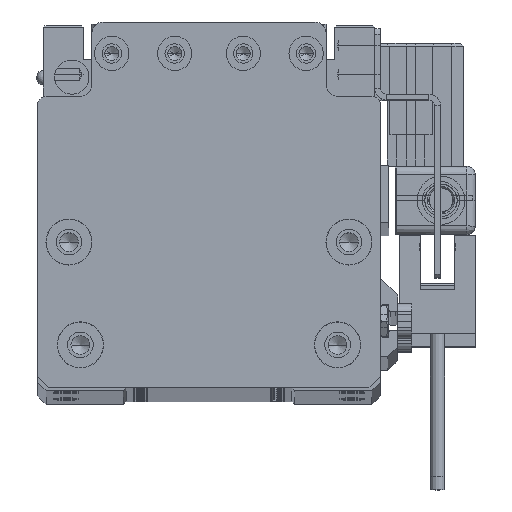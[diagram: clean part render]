
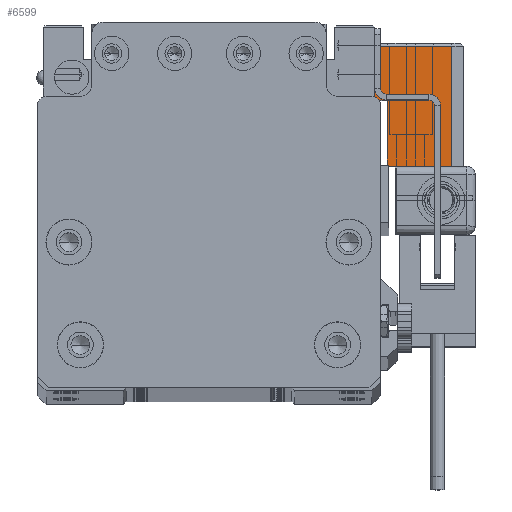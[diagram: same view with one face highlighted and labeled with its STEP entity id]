
A CAD part, top view. The second image highlights one B-rep face of the part: STEP entity #6599.
In plain terms, the highlighted planar face has unit normal (0, 0, 1) as drawn and (-1, 0, 0) by its records, which use the part's own axes.
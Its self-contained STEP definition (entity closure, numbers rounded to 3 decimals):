
#60 = VERTEX_POINT ( 'NONE', #8821 ) ;
#885 = VECTOR ( 'NONE', #57699, 1000. ) ;
#1038 = DIRECTION ( 'NONE',  ( 0., -1., 0. ) ) ;
#1151 = ORIENTED_EDGE ( 'NONE', *, *, #57115, .T. ) ;
#2851 = VERTEX_POINT ( 'NONE', #17645 ) ;
#4406 = LINE ( 'NONE', #45603, #43703 ) ;
#5534 = LINE ( 'NONE', #63836, #885 ) ;
#6599 = ADVANCED_FACE ( 'NONE', ( #30692 ), #34828, .T. ) ;
#6902 = VECTOR ( 'NONE', #45161, 1000. ) ;
#8821 = CARTESIAN_POINT ( 'NONE',  ( -17., 0.75, -13.3 ) ) ;
#13130 = CARTESIAN_POINT ( 'NONE',  ( -17., -10.75, -13.3 ) ) ;
#17336 = ORIENTED_EDGE ( 'NONE', *, *, #34155, .T. ) ;
#17645 = CARTESIAN_POINT ( 'NONE',  ( -17., 0.75, -15.5 ) ) ;
#19029 = DIRECTION ( 'NONE',  ( -1., 0., 0. ) ) ;
#19078 = EDGE_CURVE ( 'NONE', #60, #47903, #23372, .T. ) ;
#19943 = LINE ( 'NONE', #20293, #53918 ) ;
#20022 = VERTEX_POINT ( 'NONE', #25484 ) ;
#20293 = CARTESIAN_POINT ( 'NONE',  ( -17., 10.75, -2. ) ) ;
#22583 = ORIENTED_EDGE ( 'NONE', *, *, #54611, .T. ) ;
#22692 = CARTESIAN_POINT ( 'NONE',  ( -17., -10.75, -13.3 ) ) ;
#23372 = LINE ( 'NONE', #22692, #61265 ) ;
#25422 = ORIENTED_EDGE ( 'NONE', *, *, #19078, .T. ) ;
#25484 = CARTESIAN_POINT ( 'NONE',  ( -17., -10.75, -2. ) ) ;
#30692 = FACE_OUTER_BOUND ( 'NONE', #51499, .T. ) ;
#34155 = EDGE_CURVE ( 'NONE', #47903, #20022, #4406, .T. ) ;
#34828 = PLANE ( 'NONE',  #38761 ) ;
#35565 = CARTESIAN_POINT ( 'NONE',  ( -17., -10.75, -15.5 ) ) ;
#36164 = CARTESIAN_POINT ( 'NONE',  ( -17., -10.75, -15.5 ) ) ;
#36999 = VERTEX_POINT ( 'NONE', #54042 ) ;
#38761 = AXIS2_PLACEMENT_3D ( 'NONE', #36164, #19029, #56742 ) ;
#40028 = LINE ( 'NONE', #35565, #6902 ) ;
#41348 = VECTOR ( 'NONE', #60517, 1000. ) ;
#43703 = VECTOR ( 'NONE', #61685, 1000. ) ;
#44765 = LINE ( 'NONE', #65666, #41348 ) ;
#45161 = DIRECTION ( 'NONE',  ( 0., -1., 0. ) ) ;
#45603 = CARTESIAN_POINT ( 'NONE',  ( -17., -10.75, -15.5 ) ) ;
#47903 = VERTEX_POINT ( 'NONE', #13130 ) ;
#51499 = EDGE_LOOP ( 'NONE', ( #1151, #66901, #59087, #22583, #25422, #17336 ) ) ;
#51518 = DIRECTION ( 'NONE',  ( 0., 1., 0. ) ) ;
#52287 = CARTESIAN_POINT ( 'NONE',  ( -17., 10.25, -2. ) ) ;
#53918 = VECTOR ( 'NONE', #51518, 1000. ) ;
#54042 = CARTESIAN_POINT ( 'NONE',  ( -17., 10.25, -15.5 ) ) ;
#54611 = EDGE_CURVE ( 'NONE', #2851, #60, #44765, .T. ) ;
#56742 = DIRECTION ( 'NONE',  ( 0., 0., 1. ) ) ;
#57115 = EDGE_CURVE ( 'NONE', #20022, #64243, #19943, .T. ) ;
#57699 = DIRECTION ( 'NONE',  ( 0., 0., -1. ) ) ;
#58006 = EDGE_CURVE ( 'NONE', #36999, #2851, #40028, .T. ) ;
#59087 = ORIENTED_EDGE ( 'NONE', *, *, #58006, .T. ) ;
#60517 = DIRECTION ( 'NONE',  ( 0., 0., 1. ) ) ;
#61265 = VECTOR ( 'NONE', #1038, 1000. ) ;
#61685 = DIRECTION ( 'NONE',  ( 0., 0., 1. ) ) ;
#63836 = CARTESIAN_POINT ( 'NONE',  ( -17., 10.25, -15.5 ) ) ;
#64243 = VERTEX_POINT ( 'NONE', #52287 ) ;
#65666 = CARTESIAN_POINT ( 'NONE',  ( -17., 0.75, -15.5 ) ) ;
#66901 = ORIENTED_EDGE ( 'NONE', *, *, #67001, .T. ) ;
#67001 = EDGE_CURVE ( 'NONE', #64243, #36999, #5534, .T. ) ;
